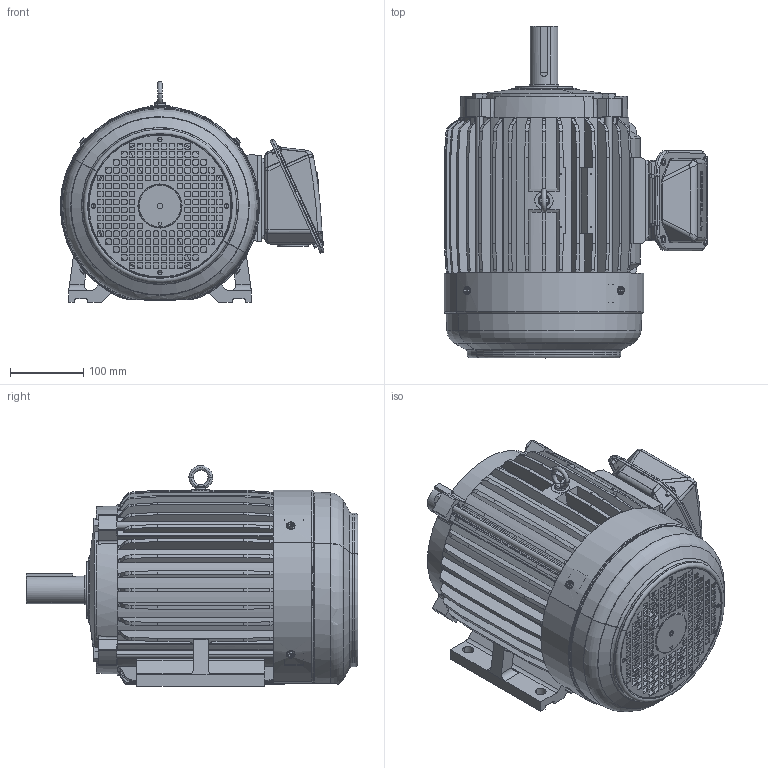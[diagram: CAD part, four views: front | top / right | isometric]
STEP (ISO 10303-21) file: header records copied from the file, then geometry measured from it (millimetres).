
FILE_DESCRIPTION(('CATIA V5 STEP Exchange'),'2;1');
FILE_NAME('D:\AEHF-3D\31043A159--AEHF-132S.stp','2016-10-11T03:17:17+00:00',('none'),('none'),'Version 5-6 Release 2012','CATIA V5 STEP AP203','none');
FILE_SCHEMA(('CONFIG_CONTROL_DESIGN'));
Length unit declared in the file: millimetre
Products named in the file (1): 31043A159--AEHF-132S
Bounding box: 360.62 x 454 x 302.3 mm (x, y, z)
Volume: 4247420.9 mm3; surface area: 1424380.1 mm2
Topology: 1 solids, 13 shells, 3916 faces, 10998 edges, 7168 vertices
Faces by surface type: plane 1945, cylinder 1290, torus 283, cone 214, bspline 146, sphere 34, revolution 4
Entity records: 133803 total; most frequent: CARTESIAN_POINT 39605, ORIENTED_EDGE 21916, DIRECTION 15072, EDGE_CURVE 10958, VERTEX_POINT 7168, AXIS2_PLACEMENT_3D 6271, VECTOR 5794, LINE 5794
